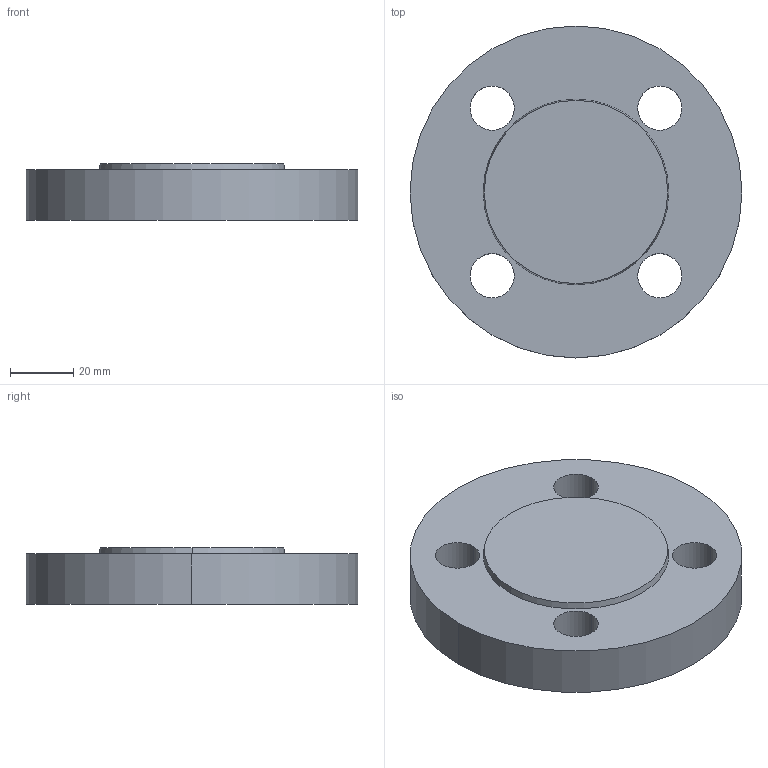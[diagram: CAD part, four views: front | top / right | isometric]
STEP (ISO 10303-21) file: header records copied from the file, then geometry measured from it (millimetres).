
FILE_DESCRIPTION (( 'STEP AP214' ), '1' );
FILE_NAME ('PN40 DN20 Type 05 - Type B Face.STEP', '2018-12-29T18:25:02', ( '' ), ( '' ), 'SwSTEP 2.0', 'SolidWorks 2019', '' );
FILE_SCHEMA (( 'AUTOMOTIVE_DESIGN' ));
Length unit declared in the file: millimetre
Products named in the file (1): PN40 DN20 Type 05 - Type B Face
Bounding box: 105 x 105 x 18 mm (x, y, z)
Volume: 134040.9 mm3; surface area: 24486.9 mm2
Topology: 1 solids, 1 shells, 15 faces, 36 edges, 24 vertices
Faces by surface type: cylinder 10, plane 3, cone 2
Entity records: 504 total; most frequent: DIRECTION 92, CARTESIAN_POINT 76, ORIENTED_EDGE 72, AXIS2_PLACEMENT_3D 40, EDGE_CURVE 36, CIRCLE 24, EDGE_LOOP 24, VERTEX_POINT 24
